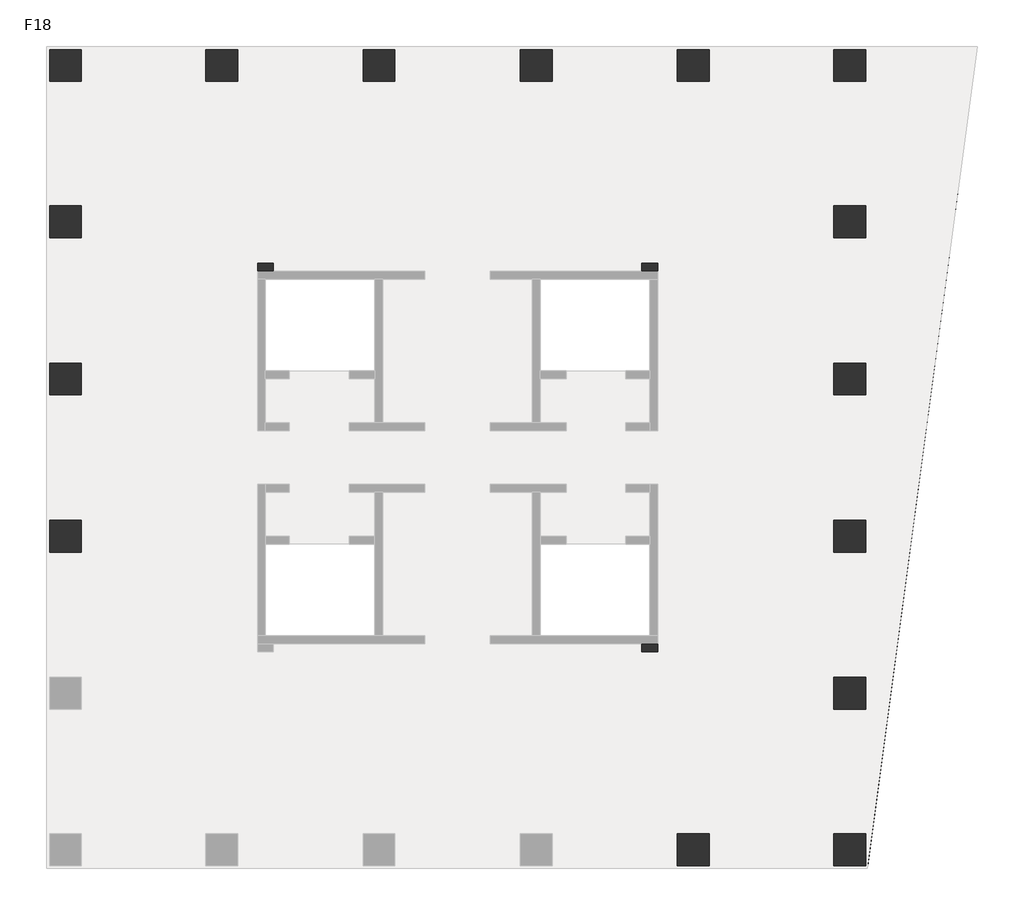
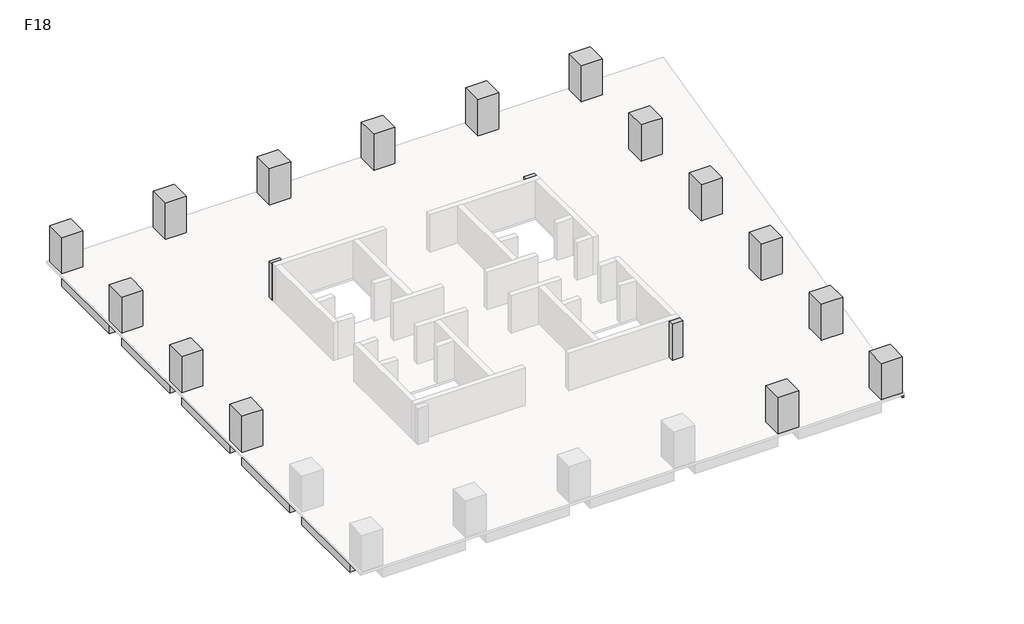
# One storey, part 2 of 2: 21 beams, 18 columns.
"""IFC4 building model written with IfcOpenShell, lengths in millimetres."""

from ifc_helpers import new_model, si_unit, frame, origin, place, context, project, spatial, polyline, outline, extrude, faceted_brep, element, save

model = new_model("IFC4")

# Units and contexts
model_context = context("Model", 3, world=origin())
ifc_project = project(units=[si_unit("LENGTHUNIT", "METRE", prefix="MILLI")], contexts=[model_context])

# Site, building, storey
site = spatial("IfcSite", under=ifc_project)
building = spatial("IfcBuilding", under=site)
storey = spatial("IfcBuildingStorey", under=building, Name="F18", Elevation=72000.0)

# Beams
placement = place(None, origin())
element("IfcBeam", 1, ObjectType="混凝土 - 矩形梁 : KL(5)-800x1000", at=placement, inside=storey, context=model_context, shape_type="SweptSolid", body=[
    extrude(outline(polyline([(25327.3257831, 27051.0498658), (25327.3257831, 26251.0498658), (19077.3257831, 26251.0498658), (19077.3257831, 27051.0498658), (25327.3257831, 27051.0498658)])), frame((0.0, 0.0, 71000.0), z_axis=(0.0, 0.0, 1.0), x_axis=(1.0, 0.0, 0.0)), (0.0, 0.0, 1.0), 840.0),
    extrude(outline(polyline([(-12472.6742169, 26251.0498658), (-12472.6742169, 27051.0498658), (-6222.6742169, 27051.0498658), (-6222.6742169, 26251.0498658), (-12472.6742169, 26251.0498658)])), frame((0.0, 0.0, 71000.0), z_axis=(0.0, 0.0, 1.0), x_axis=(1.0, 0.0, 0.0)), (0.0, 0.0, 1.0), 840.0),
    extrude(outline(polyline([(-4622.6742169, 26251.0498658), (-4622.6742169, 27051.0498658), (1677.3257831, 27051.0498658), (1677.3257831, 26251.0498658), (-4622.6742169, 26251.0498658)])), frame((0.0, 0.0, 71000.0), z_axis=(0.0, 0.0, 1.0), x_axis=(1.0, 0.0, 0.0)), (0.0, 0.0, 1.0), 840.0),
    extrude(outline(polyline([(3277.3257831, 26251.0498658), (3277.3257831, 27051.0498658), (9577.3257831, 27051.0498658), (9577.3257831, 26251.0498658), (3277.3257831, 26251.0498658)])), frame((0.0, 0.0, 71000.0), z_axis=(0.0, 0.0, 1.0), x_axis=(1.0, 0.0, 0.0)), (0.0, 0.0, 1.0), 840.0),
    extrude(outline(polyline([(11177.3257831, 26251.0498658), (11177.3257831, 27051.0498658), (17477.3257831, 27051.0498658), (17477.3257831, 26251.0498658), (11177.3257831, 26251.0498658)])), frame((0.0, 0.0, 71000.0), z_axis=(0.0, 0.0, 1.0), x_axis=(1.0, 0.0, 0.0)), (0.0, 0.0, 1.0), 840.0),
])
element("IfcBeam", 2, ObjectType="混凝土 - 矩形梁 : KL(5)-800x1000", at=placement, inside=storey, context=model_context, shape_type="Brep", body=[
    faceted_brep([(26927.3257831, 26251.0498658, 71000.0), (32422.0087099, 26251.0498658, 71000.0), (32422.0087099, 26251.0498658, 71840.0), (32018.4257091, 26251.0498658, 71840.0), (26927.3257831, 26251.0498658, 71840.0), (32422.0087099, 27051.0498658, 71000.0), (26927.3257831, 27051.0498658, 71000.0), (26927.3257831, 27051.0498658, 71840.0), (32422.0087099, 27051.0498658, 71840.0)], [[[0, 1, 2, 3, 4]], [[5, 1, 0, 6]], [[5, 6, 7, 8]], [[1, 5, 8, 2]], [[6, 0, 4, 7]], [[4, 3, 2, 8, 7]]]),
])
element("IfcBeam", 3, ObjectType="混凝土 - 矩形梁 : KL(5)-800x1000", at=placement, inside=storey, context=model_context, shape_type="Brep", body=[
    faceted_brep([(26127.3257831, -6098.9501342, 71000.0), (26127.3257831, -12348.9501342, 71000.0), (26127.3257831, -12348.9501342, 71840.0), (26127.3257831, -6098.9501342, 71840.0), (26927.3257831, -12348.9501342, 71000.0), (26927.3257831, -6098.9501342, 71000.0), (26927.3257831, -6098.9501342, 71840.0), (26927.3257831, -11700.7859463, 71840.0), (26927.3257831, -12348.9501342, 71840.0)], [[[0, 1, 2, 3]], [[4, 1, 0, 5]], [[4, 5, 6, 7, 8]], [[1, 4, 8, 2]], [[5, 0, 3, 6]], [[3, 2, 8, 7, 6]]]),
    faceted_brep([(26927.3257831, 25451.0498658, 71000.0), (26127.3257831, 25451.0498658, 71000.0), (26127.3257831, 25451.0498658, 71840.0), (26927.3257831, 25451.0498658, 71840.0), (26127.3257831, 19201.0498658, 71000.0), (26927.3257831, 19201.0498658, 71000.0), (26927.3257831, 19201.0498658, 71840.0), (26127.3257831, 19201.0498658, 71840.0)], [[[0, 1, 2, 3]], [[4, 5, 6, 7]], [[1, 4, 7, 2]], [[1, 0, 5, 4]], [[5, 0, 3, 6]], [[3, 2, 7, 6]]]),
    faceted_brep([(26927.3257831, 17601.0498658, 71000.0), (26127.3257831, 17601.0498658, 71000.0), (26127.3257831, 17601.0498658, 71840.0), (26927.3257831, 17601.0498658, 71840.0), (26127.3257831, 11301.0498658, 71000.0), (26927.3257831, 11301.0498658, 71000.0), (26927.3257831, 11301.0498658, 71840.0), (26127.3257831, 11301.0498658, 71840.0)], [[[0, 1, 2, 3]], [[4, 5, 6, 7]], [[1, 4, 7, 2]], [[1, 0, 5, 4]], [[5, 0, 3, 6]], [[3, 2, 7, 6]]]),
    faceted_brep([(26927.3257831, 9701.0498658, 71000.0), (26127.3257831, 9701.0498658, 71000.0), (26127.3257831, 9701.0498658, 71840.0), (26927.3257831, 9701.0498658, 71840.0), (26127.3257831, 3401.0498658, 71000.0), (26927.3257831, 3401.0498658, 71000.0), (26927.3257831, 3401.0498658, 71840.0), (26127.3257831, 3401.0498658, 71840.0)], [[[0, 1, 2, 3]], [[4, 5, 6, 7]], [[1, 4, 7, 2]], [[1, 0, 5, 4]], [[5, 0, 3, 6]], [[3, 2, 7, 6]]]),
    faceted_brep([(26927.3257831, 1801.0498658, 71000.0), (26127.3257831, 1801.0498658, 71000.0), (26127.3257831, 1801.0498658, 71840.0), (26927.3257831, 1801.0498658, 71840.0), (26127.3257831, -4498.9501342, 71000.0), (26927.3257831, -4498.9501342, 71000.0), (26927.3257831, -4498.9501342, 71840.0), (26127.3257831, -4498.9501342, 71840.0)], [[[0, 1, 2, 3]], [[4, 5, 6, 7]], [[1, 4, 7, 2]], [[1, 0, 5, 4]], [[5, 0, 3, 6]], [[3, 2, 7, 6]]]),
])
element("IfcBeam", 4, ObjectType="混凝土 - 矩形梁 : KL(5)-800x1000", at=placement, inside=storey, context=model_context, shape_type="SweptSolid", body=[
    extrude(outline(polyline([(-14072.6742169, 25451.0498658), (-13272.6742169, 25451.0498658), (-13272.6742169, 19201.0498658), (-14072.6742169, 19201.0498658), (-14072.6742169, 25451.0498658)])), frame((0.0, 0.0, 71000.0), z_axis=(0.0, 0.0, 1.0), x_axis=(1.0, 0.0, 0.0)), (0.0, 0.0, 1.0), 840.0),
    extrude(outline(polyline([(-13272.6742169, -12348.9501342), (-14072.6742169, -12348.9501342), (-14072.6742169, -6098.9501342), (-13272.6742169, -6098.9501342), (-13272.6742169, -12348.9501342)])), frame((0.0, 0.0, 71000.0), z_axis=(0.0, 0.0, 1.0), x_axis=(1.0, 0.0, 0.0)), (0.0, 0.0, 1.0), 840.0),
    extrude(outline(polyline([(-14072.6742169, 17601.0498658), (-13272.6742169, 17601.0498658), (-13272.6742169, 11301.0498658), (-14072.6742169, 11301.0498658), (-14072.6742169, 17601.0498658)])), frame((0.0, 0.0, 71000.0), z_axis=(0.0, 0.0, 1.0), x_axis=(1.0, 0.0, 0.0)), (0.0, 0.0, 1.0), 840.0),
    extrude(outline(polyline([(-14072.6742169, 9701.0498658), (-13272.6742169, 9701.0498658), (-13272.6742169, 3401.0498658), (-14072.6742169, 3401.0498658), (-14072.6742169, 9701.0498658)])), frame((0.0, 0.0, 71000.0), z_axis=(0.0, 0.0, 1.0), x_axis=(1.0, 0.0, 0.0)), (0.0, 0.0, 1.0), 840.0),
    extrude(outline(polyline([(-14072.6742169, 1801.0498658), (-13272.6742169, 1801.0498658), (-13272.6742169, -4498.9501342), (-14072.6742169, -4498.9501342), (-14072.6742169, 1801.0498658)])), frame((0.0, 0.0, 71000.0), z_axis=(0.0, 0.0, 1.0), x_axis=(1.0, 0.0, 0.0)), (0.0, 0.0, 1.0), 840.0),
])
element("IfcBeam", 5, ObjectType="混凝土 - 矩形梁 : L1-800x500", at=placement, inside=storey, context=model_context, shape_type="SweptSolid", body=[
    extrude(outline(polyline([(-12472.6742169, 2201.0498658), (-12472.6742169, 3001.0498658), (-3622.6742169, 3001.0498658), (-3622.6742169, 2201.0498658), (-12472.6742169, 2201.0498658)])), frame((0.0, 0.0, 71500.0), z_axis=(0.0, 0.0, 1.0), x_axis=(1.0, 0.0, 0.0)), (0.0, 0.0, 1.0), 340.0),
])
element("IfcBeam", 6, ObjectType="混凝土 - 矩形梁 : L1-800x500", at=placement, inside=storey, context=model_context, shape_type="SweptSolid", body=[
    extrude(outline(polyline([(-12472.6742169, 10101.0498658), (-12472.6742169, 10901.0498658), (-3622.6742169, 10901.0498658), (-3622.6742169, 10101.0498658), (-12472.6742169, 10101.0498658)])), frame((0.0, 0.0, 71500.0), z_axis=(0.0, 0.0, 1.0), x_axis=(1.0, 0.0, 0.0)), (0.0, 0.0, 1.0), 340.0),
])
element("IfcBeam", 7, ObjectType="混凝土 - 矩形梁 : L1-800x500", at=placement, inside=storey, context=model_context, shape_type="Brep", body=[
    faceted_brep([(-12472.6742169, 17789.85471, 71500.0), (-3622.6742169, 15588.3621727, 71500.0), (-3622.6742169, 15588.3621727, 71840.0), (-12472.6742169, 17789.85471, 71840.0), (-3173.6696907, 16301.0498658, 71500.0), (-3622.6742169, 16301.0498658, 71500.0), (-3622.6742169, 15901.0498658, 71500.0), (-12472.6742169, 18614.2350714, 71500.0), (-3746.9473979, 16443.6562607, 71500.0), (-12472.6742169, 18614.2350714, 71840.0), (-3746.9473979, 16443.6562607, 71840.0), (-3173.6696907, 16301.0498658, 71840.0), (-3622.6742169, 16301.0498658, 71840.0)], [[[0, 1, 2, 3]], [[4, 5, 6, 1, 0, 7, 8]], [[4, 8, 7, 9, 10, 11]], [[6, 5, 12, 2, 1]], [[5, 4, 11, 12]], [[7, 0, 3, 9]], [[3, 2, 12, 11, 10, 9]]]),
])
element("IfcBeam", 8, ObjectType="混凝土 - 矩形梁 : L1-800x500", at=placement, inside=storey, context=model_context, shape_type="SweptSolid", body=[
    extrude(outline(polyline([(-3173.6696907, 16301.0498658), (-3746.9473979, 16443.6562607), (-5661.5624638, 25451.0498658), (-4843.6893517, 25451.0498658), (-2898.7618154, 16301.0498658), (-3173.6696907, 16301.0498658)])), frame((0.0, 0.0, 71500.0), z_axis=(0.0, 0.0, 1.0), x_axis=(1.0, 0.0, 0.0)), (0.0, 0.0, 1.0), 340.0),
])
element("IfcBeam", 9, ObjectType="混凝土 - 矩形梁 : L1-800x500", at=placement, inside=storey, context=model_context, shape_type="SweptSolid", body=[
    extrude(outline(polyline([(2077.3257831, 25451.0498658), (2877.3257831, 25451.0498658), (2877.3257831, 15901.0498658), (2077.3257831, 15901.0498658), (2077.3257831, 25451.0498658)])), frame((0.0, 0.0, 71500.0), z_axis=(0.0, 0.0, 1.0), x_axis=(1.0, 0.0, 0.0)), (0.0, 0.0, 1.0), 340.0),
])
element("IfcBeam", 10, ObjectType="混凝土 - 矩形梁 : L1-800x500", at=placement, inside=storey, context=model_context, shape_type="SweptSolid", body=[
    extrude(outline(polyline([(9977.3257831, 25451.0498658), (10777.3257831, 25451.0498658), (10777.3257831, 15901.0498658), (9977.3257831, 15901.0498658), (9977.3257831, 25451.0498658)])), frame((0.0, 0.0, 71500.0), z_axis=(0.0, 0.0, 1.0), x_axis=(1.0, 0.0, 0.0)), (0.0, 0.0, 1.0), 340.0),
])
element("IfcBeam", 11, ObjectType="混凝土 - 矩形梁 : L1-800x500", at=placement, inside=storey, context=model_context, shape_type="Brep", body=[
    faceted_brep([(25327.3257831, -4687.7549784, 71500.0), (16477.3257831, -2486.2624411, 71500.0), (16477.3257831, -2486.2624411, 71840.0), (25327.3257831, -4687.7549784, 71840.0), (16028.3212569, -3198.9501342, 71500.0), (16477.3257831, -3198.9501342, 71500.0), (16477.3257831, -2798.9501342, 71500.0), (25327.3257831, -5512.1353397, 71500.0), (16601.5989641, -3341.556529, 71500.0), (25327.3257831, -5512.1353397, 71840.0), (16601.5989641, -3341.556529, 71840.0), (16028.3212569, -3198.9501342, 71840.0), (16477.3257831, -3198.9501342, 71840.0)], [[[0, 1, 2, 3]], [[4, 5, 6, 1, 0, 7, 8]], [[4, 8, 7, 9, 10, 11]], [[6, 5, 12, 2, 1]], [[5, 4, 11, 12]], [[7, 0, 3, 9]], [[3, 2, 12, 11, 10, 9]]]),
])
element("IfcBeam", 12, ObjectType="混凝土 - 矩形梁 : L1-800x500", at=placement, inside=storey, context=model_context, shape_type="SweptSolid", body=[
    extrude(outline(polyline([(16028.3212569, -3198.9501342), (16601.5989641, -3341.556529), (18516.21403, -12348.9501342), (17698.3409179, -12348.9501342), (15753.4133817, -3198.9501342), (16028.3212569, -3198.9501342)])), frame((0.0, 0.0, 71500.0), z_axis=(0.0, 0.0, 1.0), x_axis=(1.0, 0.0, 0.0)), (0.0, 0.0, 1.0), 340.0),
])
element("IfcBeam", 13, ObjectType="混凝土 - 矩形梁 : L1-800x500", at=placement, inside=storey, context=model_context, shape_type="SweptSolid", body=[
    extrude(outline(polyline([(25327.3257831, 3001.0498658), (25327.3257831, 2201.0498658), (16477.3257831, 2201.0498658), (16477.3257831, 3001.0498658), (25327.3257831, 3001.0498658)])), frame((0.0, 0.0, 71500.0), z_axis=(0.0, 0.0, 1.0), x_axis=(1.0, 0.0, 0.0)), (0.0, 0.0, 1.0), 340.0),
])
element("IfcBeam", 14, ObjectType="混凝土 - 矩形梁 : L1-800x500", at=placement, inside=storey, context=model_context, shape_type="SweptSolid", body=[
    extrude(outline(polyline([(25327.3257831, 10901.0498658), (25327.3257831, 10101.0498658), (16477.3257831, 10101.0498658), (16477.3257831, 10901.0498658), (25327.3257831, 10901.0498658)])), frame((0.0, 0.0, 71500.0), z_axis=(0.0, 0.0, 1.0), x_axis=(1.0, 0.0, 0.0)), (0.0, 0.0, 1.0), 340.0),
])
element("IfcBeam", 15, ObjectType="混凝土 - 矩形梁 : L1-800x500", at=placement, inside=storey, context=model_context, shape_type="Brep", body=[
    faceted_brep([(25327.3257831, 18610.6867312, 71500.0), (16590.8993897, 16393.3196262, 71500.0), (16227.3565337, 16301.0498658, 71500.0), (16227.3565337, 16301.0498658, 71840.0), (16590.8993897, 16393.3196262, 71840.0), (25327.3257831, 18610.6867312, 71840.0), (16477.3257831, 16301.0498658, 71500.0), (25327.3257831, 17785.3216299, 71500.0), (16477.3257831, 15539.1287365, 71500.0), (16477.3257831, 15901.0498658, 71500.0), (25327.3257831, 17785.3216299, 71840.0), (16477.3257831, 15539.1287365, 71840.0), (16477.3257831, 16301.0498658, 71840.0)], [[[0, 1, 2, 3, 4, 5]], [[6, 2, 1, 0, 7, 8, 9]], [[8, 7, 10, 11]], [[9, 8, 11, 12, 6]], [[2, 6, 12, 3]], [[7, 0, 5, 10]], [[5, 4, 3, 12, 11, 10]]]),
])
element("IfcBeam", 16, ObjectType="混凝土 - 矩形梁 : L1-800x500", at=placement, inside=storey, context=model_context, shape_type="SweptSolid", body=[
    extrude(outline(polyline([(16590.8993897, 16393.3196262), (16227.3565337, 16301.0498658), (15753.4133817, 16301.0498658), (17698.3409179, 25451.0498658), (18516.21403, 25451.0498658), (16590.8993897, 16393.3196262)])), frame((0.0, 0.0, 71500.0), z_axis=(0.0, 0.0, 1.0), x_axis=(1.0, 0.0, 0.0)), (0.0, 0.0, 1.0), 340.0),
])
element("IfcBeam", 17, ObjectType="混凝土 - 矩形梁 : L2-400x400", at=placement, inside=storey, context=model_context, shape_type="Brep", body=[
    faceted_brep([(32422.0087099, 26251.0498658, 71600.0), (27029.3257831, -13948.9501342, 71600.0), (26927.3257831, -13935.2672073, 71600.0), (26927.3257831, -11700.7859463, 71600.0), (27759.2793677, -5498.9501342, 71600.0), (27812.9379042, -5098.9501342, 71600.0), (28819.0354652, 2401.0498658, 71600.0), (28872.6940018, 2801.0498658, 71600.0), (29878.7915628, 10301.0498658, 71600.0), (29932.4500994, 10701.0498658, 71600.0), (30938.5476603, 18201.0498658, 71600.0), (30992.2061969, 18601.0498658, 71600.0), (32018.4257091, 26251.0498658, 71600.0), (32422.0087099, 26251.0498658, 71840.0), (27029.3257831, -13948.9501342, 71840.0), (32018.4257091, 26251.0498658, 71840.0), (26927.3257831, -13935.2672073, 71840.0), (26927.3257831, -12348.9501342, 71840.0), (26927.3257831, -11700.7859463, 71840.0), (27759.2793677, -5498.9501342, 71840.0), (27812.9379042, -5098.9501342, 71840.0), (28819.0354652, 2401.0498658, 71840.0), (28872.6940018, 2801.0498658, 71840.0), (29878.7915628, 10301.0498658, 71840.0), (29932.4500994, 10701.0498658, 71840.0), (30938.5476603, 18201.0498658, 71840.0), (30992.2061969, 18601.0498658, 71840.0)], [[[0, 1, 2, 3, 4, 5, 6, 7, 8, 9, 10, 11, 12]], [[1, 0, 13, 14]], [[0, 12, 15, 13]], [[3, 2, 16, 17, 18]], [[12, 11, 10, 9, 8, 7, 6, 5, 4, 3, 18, 19, 20, 21, 22, 23, 24, 25, 26, 15]], [[2, 1, 14, 16]], [[14, 13, 15, 26, 25, 24, 23, 22, 21, 20, 19, 18, 17, 16]]]),
])
element("IfcBeam", 18, ObjectType="混凝土 - 矩形梁 : L2-400x400", at=placement, inside=storey, context=model_context, shape_type="SweptSolid", body=[
    extrude(outline(polyline([(30938.5476603, 18201.0498658), (26927.3257831, 18201.0498658), (26927.3257831, 18601.0498658), (30992.2061969, 18601.0498658), (30938.5476603, 18201.0498658)])), frame((0.0, 0.0, 71600.0), z_axis=(0.0, 0.0, 1.0), x_axis=(1.0, 0.0, 0.0)), (0.0, 0.0, 1.0), 240.0),
])
element("IfcBeam", 19, ObjectType="混凝土 - 矩形梁 : L2-400x400", at=placement, inside=storey, context=model_context, shape_type="SweptSolid", body=[
    extrude(outline(polyline([(29878.7915628, 10301.0498658), (26927.3257831, 10301.0498658), (26927.3257831, 10701.0498658), (29932.4500994, 10701.0498658), (29878.7915628, 10301.0498658)])), frame((0.0, 0.0, 71600.0), z_axis=(0.0, 0.0, 1.0), x_axis=(1.0, 0.0, 0.0)), (0.0, 0.0, 1.0), 240.0),
])
element("IfcBeam", 20, ObjectType="混凝土 - 矩形梁 : L2-400x400", at=placement, inside=storey, context=model_context, shape_type="SweptSolid", body=[
    extrude(outline(polyline([(28819.0354652, 2401.0498658), (26927.3257831, 2401.0498658), (26927.3257831, 2801.0498658), (28872.6940018, 2801.0498658), (28819.0354652, 2401.0498658)])), frame((0.0, 0.0, 71600.0), z_axis=(0.0, 0.0, 1.0), x_axis=(1.0, 0.0, 0.0)), (0.0, 0.0, 1.0), 240.0),
])
element("IfcBeam", 21, ObjectType="混凝土 - 矩形梁 : L2-400x400", at=placement, inside=storey, context=model_context, shape_type="SweptSolid", body=[
    extrude(outline(polyline([(27759.2793677, -5498.9501342), (26927.3257831, -5498.9501342), (26927.3257831, -5098.9501342), (27812.9379042, -5098.9501342), (27759.2793677, -5498.9501342)])), frame((0.0, 0.0, 71600.0), z_axis=(0.0, 0.0, 1.0), x_axis=(1.0, 0.0, 0.0)), (0.0, 0.0, 1.0), 240.0),
])

# Columns
element("IfcColumn", 22, ObjectType="混凝土 - 矩形 - 柱 : Z1-1600x1600", at=placement, inside=storey, context=model_context, shape_type="SweptSolid", body=[
    extrude(outline(polyline([(-12472.6742169, 27051.0498658), (-12472.6742169, 25451.0498658), (-14072.6742169, 25451.0498658), (-14072.6742169, 27051.0498658), (-12472.6742169, 27051.0498658)])), frame((0.0, 0.0, 72000.0), z_axis=(0.0, 0.0, 1.0), x_axis=(1.0, 0.0, 0.0)), (0.0, 0.0, 1.0), 2900.0),
])
element("IfcColumn", 23, ObjectType="混凝土 - 矩形 - 柱 : Z1-1600x1600", at=placement, inside=storey, context=model_context, shape_type="Brep", body=[
    faceted_brep([(-4622.6742169, 27051.0498658, 72000.0), (-4622.6742169, 25451.0498658, 72000.0), (-6222.6742169, 25451.0498658, 72000.0), (-6222.6742169, 27051.0498658, 72000.0), (-4622.6742169, 27051.0498658, 74000.0), (-4622.6742169, 27051.0498658, 74900.0), (-4622.6742169, 26251.0498658, 74900.0), (-4622.6742169, 25451.0498658, 74900.0), (-6222.6742169, 25451.0498658, 74900.0), (-6222.6742169, 26251.0498658, 74900.0), (-6222.6742169, 27051.0498658, 74900.0), (-6222.6742169, 27051.0498658, 74000.0)], [[[0, 1, 2, 3]], [[1, 0, 4, 5, 6, 7]], [[2, 1, 7, 8]], [[3, 2, 8, 9, 10, 11]], [[0, 3, 11, 10, 5, 4]], [[7, 6, 5, 10, 9, 8]]]),
])
element("IfcColumn", 24, ObjectType="混凝土 - 矩形 - 柱 : Z1-1600x1600", at=placement, inside=storey, context=model_context, shape_type="Brep", body=[
    faceted_brep([(-12472.6742169, 19201.0498658, 72000.0), (-12472.6742169, 17601.0498658, 72000.0), (-14072.6742169, 17601.0498658, 72000.0), (-14072.6742169, 19201.0498658, 72000.0), (-12472.6742169, 19201.0498658, 74900.0), (-12472.6742169, 17601.0498658, 74900.0), (-13272.6742169, 17601.0498658, 74900.0), (-14072.6742169, 17601.0498658, 74900.0), (-14072.6742169, 17601.0498658, 74000.0), (-14072.6742169, 19201.0498658, 74900.0), (-14072.6742169, 19201.0498658, 74000.0), (-13272.6742169, 19201.0498658, 74900.0)], [[[0, 1, 2, 3]], [[1, 0, 4, 5]], [[2, 1, 5, 6, 7, 8]], [[3, 2, 8, 7, 9, 10]], [[0, 3, 10, 9, 11, 4]], [[5, 4, 11, 9, 7, 6]]]),
])
element("IfcColumn", 25, ObjectType="混凝土 - 矩形 - 柱 : Z1-1600x1600", at=placement, inside=storey, context=model_context, shape_type="Brep", body=[
    faceted_brep([(-12472.6742169, 11301.0498658, 72000.0), (-12472.6742169, 9701.0498658, 72000.0), (-14072.6742169, 9701.0498658, 72000.0), (-14072.6742169, 11301.0498658, 72000.0), (-12472.6742169, 11301.0498658, 74900.0), (-12472.6742169, 9701.0498658, 74900.0), (-13272.6742169, 9701.0498658, 74900.0), (-14072.6742169, 9701.0498658, 74900.0), (-14072.6742169, 9701.0498658, 74000.0), (-14072.6742169, 11301.0498658, 74900.0), (-14072.6742169, 11301.0498658, 74000.0), (-13272.6742169, 11301.0498658, 74900.0)], [[[0, 1, 2, 3]], [[1, 0, 4, 5]], [[2, 1, 5, 6, 7, 8]], [[3, 2, 8, 7, 9, 10]], [[0, 3, 10, 9, 11, 4]], [[5, 4, 11, 9, 7, 6]]]),
])
element("IfcColumn", 26, ObjectType="混凝土 - 矩形 - 柱 : Z1-1600x1600", at=placement, inside=storey, context=model_context, shape_type="Brep", body=[
    faceted_brep([(-12472.6742169, 3401.0498658, 72000.0), (-12472.6742169, 1801.0498658, 72000.0), (-14072.6742169, 1801.0498658, 72000.0), (-14072.6742169, 3401.0498658, 72000.0), (-12472.6742169, 3401.0498658, 74900.0), (-12472.6742169, 1801.0498658, 74900.0), (-13272.6742169, 1801.0498658, 74900.0), (-14072.6742169, 1801.0498658, 74900.0), (-14072.6742169, 1801.0498658, 74000.0), (-14072.6742169, 3401.0498658, 74900.0), (-14072.6742169, 3401.0498658, 74000.0), (-13272.6742169, 3401.0498658, 74900.0)], [[[0, 1, 2, 3]], [[1, 0, 4, 5]], [[2, 1, 5, 6, 7, 8]], [[3, 2, 8, 7, 9, 10]], [[0, 3, 10, 9, 11, 4]], [[5, 4, 11, 9, 7, 6]]]),
])
element("IfcColumn", 27, ObjectType="混凝土 - 矩形 - 柱 : Z1-1600x1600", at=placement, inside=storey, context=model_context, shape_type="SweptSolid", body=[
    extrude(outline(polyline([(25327.3257831, 27051.0498658), (26927.3257831, 27051.0498658), (26927.3257831, 25451.0498658), (25327.3257831, 25451.0498658), (25327.3257831, 27051.0498658)])), frame((0.0, 0.0, 72000.0), z_axis=(0.0, 0.0, 1.0), x_axis=(1.0, 0.0, 0.0)), (0.0, 0.0, 1.0), 2900.0),
])
element("IfcColumn", 28, ObjectType="混凝土 - 矩形 - 柱 : Z1-1600x1600", at=placement, inside=storey, context=model_context, shape_type="Brep", body=[
    faceted_brep([(25327.3257831, 19201.0498658, 72000.0), (26927.3257831, 19201.0498658, 72000.0), (26927.3257831, 17601.0498658, 72000.0), (25327.3257831, 17601.0498658, 72000.0), (25327.3257831, 17601.0498658, 74900.0), (25327.3257831, 19201.0498658, 74900.0), (26927.3257831, 17601.0498658, 74000.0), (26927.3257831, 17601.0498658, 74900.0), (26127.3257831, 17601.0498658, 74900.0), (26927.3257831, 19201.0498658, 74000.0), (26927.3257831, 19201.0498658, 74900.0), (26127.3257831, 19201.0498658, 74900.0)], [[[0, 1, 2, 3]], [[0, 3, 4, 5]], [[3, 2, 6, 7, 8, 4]], [[2, 1, 9, 10, 7, 6]], [[1, 0, 5, 11, 10, 9]], [[5, 4, 8, 7, 10, 11]]]),
])
element("IfcColumn", 29, ObjectType="混凝土 - 矩形 - 柱 : Z1-1600x1600", at=placement, inside=storey, context=model_context, shape_type="Brep", body=[
    faceted_brep([(25327.3257831, 11301.0498658, 72000.0), (26927.3257831, 11301.0498658, 72000.0), (26927.3257831, 9701.0498658, 72000.0), (25327.3257831, 9701.0498658, 72000.0), (25327.3257831, 9701.0498658, 74900.0), (25327.3257831, 11301.0498658, 74900.0), (26927.3257831, 9701.0498658, 74000.0), (26927.3257831, 9701.0498658, 74900.0), (26127.3257831, 9701.0498658, 74900.0), (26927.3257831, 11301.0498658, 74000.0), (26927.3257831, 11301.0498658, 74900.0), (26127.3257831, 11301.0498658, 74900.0)], [[[0, 1, 2, 3]], [[0, 3, 4, 5]], [[3, 2, 6, 7, 8, 4]], [[2, 1, 9, 10, 7, 6]], [[1, 0, 5, 11, 10, 9]], [[5, 4, 8, 7, 10, 11]]]),
])
element("IfcColumn", 30, ObjectType="混凝土 - 矩形 - 柱 : Z1-1600x1600", at=placement, inside=storey, context=model_context, shape_type="Brep", body=[
    faceted_brep([(25327.3257831, 3401.0498658, 72000.0), (26927.3257831, 3401.0498658, 72000.0), (26927.3257831, 1801.0498658, 72000.0), (25327.3257831, 1801.0498658, 72000.0), (25327.3257831, 1801.0498658, 74900.0), (25327.3257831, 3401.0498658, 74900.0), (26927.3257831, 1801.0498658, 74000.0), (26927.3257831, 1801.0498658, 74900.0), (26127.3257831, 1801.0498658, 74900.0), (26927.3257831, 3401.0498658, 74000.0), (26927.3257831, 3401.0498658, 74900.0), (26127.3257831, 3401.0498658, 74900.0)], [[[0, 1, 2, 3]], [[0, 3, 4, 5]], [[3, 2, 6, 7, 8, 4]], [[2, 1, 9, 10, 7, 6]], [[1, 0, 5, 11, 10, 9]], [[5, 4, 8, 7, 10, 11]]]),
])
element("IfcColumn", 31, ObjectType="混凝土 - 矩形 - 柱 : Z1-1600x1600", at=placement, inside=storey, context=model_context, shape_type="Brep", body=[
    faceted_brep([(25327.3257831, -4498.9501342, 72000.0), (26927.3257831, -4498.9501342, 72000.0), (26927.3257831, -6098.9501342, 72000.0), (25327.3257831, -6098.9501342, 72000.0), (25327.3257831, -6098.9501342, 74900.0), (25327.3257831, -4498.9501342, 74900.0), (26927.3257831, -6098.9501342, 74000.0), (26927.3257831, -6098.9501342, 74900.0), (26127.3257831, -6098.9501342, 74900.0), (26927.3257831, -4498.9501342, 74000.0), (26927.3257831, -4498.9501342, 74900.0), (26127.3257831, -4498.9501342, 74900.0)], [[[0, 1, 2, 3]], [[0, 3, 4, 5]], [[3, 2, 6, 7, 8, 4]], [[2, 1, 9, 10, 7, 6]], [[1, 0, 5, 11, 10, 9]], [[5, 4, 8, 7, 10, 11]]]),
])
element("IfcColumn", 32, ObjectType="混凝土 - 矩形 - 柱 : Z1-1600x1600", at=placement, inside=storey, context=model_context, shape_type="SweptSolid", body=[
    extrude(outline(polyline([(25327.3257831, -12348.9501342), (26927.3257831, -12348.9501342), (26927.3257831, -13948.9501342), (25327.3257831, -13948.9501342), (25327.3257831, -12348.9501342)])), frame((0.0, 0.0, 72000.0), z_axis=(0.0, 0.0, 1.0), x_axis=(1.0, 0.0, 0.0)), (0.0, 0.0, 1.0), 2900.0),
])
element("IfcColumn", 33, ObjectType="混凝土 - 矩形 - 柱 : Z1-1600x1600", at=placement, inside=storey, context=model_context, shape_type="Brep", body=[
    faceted_brep([(3277.3257831, 27051.0498658, 72000.0), (3277.3257831, 25451.0498658, 72000.0), (1677.3257831, 25451.0498658, 72000.0), (1677.3257831, 27051.0498658, 72000.0), (3277.3257831, 27051.0498658, 74000.0), (3277.3257831, 27051.0498658, 74900.0), (3277.3257831, 26251.0498658, 74900.0), (3277.3257831, 25451.0498658, 74900.0), (1677.3257831, 25451.0498658, 74900.0), (1677.3257831, 26251.0498658, 74900.0), (1677.3257831, 27051.0498658, 74900.0), (1677.3257831, 27051.0498658, 74000.0)], [[[0, 1, 2, 3]], [[1, 0, 4, 5, 6, 7]], [[2, 1, 7, 8]], [[3, 2, 8, 9, 10, 11]], [[0, 3, 11, 10, 5, 4]], [[7, 6, 5, 10, 9, 8]]]),
])
element("IfcColumn", 34, ObjectType="混凝土 - 矩形 - 柱 : Z1-1600x1600", at=placement, inside=storey, context=model_context, shape_type="Brep", body=[
    faceted_brep([(11177.3257831, 27051.0498658, 72000.0), (11177.3257831, 25451.0498658, 72000.0), (9577.3257831, 25451.0498658, 72000.0), (9577.3257831, 27051.0498658, 72000.0), (11177.3257831, 27051.0498658, 74000.0), (11177.3257831, 27051.0498658, 74900.0), (11177.3257831, 26251.0498658, 74900.0), (11177.3257831, 25451.0498658, 74900.0), (9577.3257831, 25451.0498658, 74900.0), (9577.3257831, 26251.0498658, 74900.0), (9577.3257831, 27051.0498658, 74900.0), (9577.3257831, 27051.0498658, 74000.0)], [[[0, 1, 2, 3]], [[1, 0, 4, 5, 6, 7]], [[2, 1, 7, 8]], [[3, 2, 8, 9, 10, 11]], [[0, 3, 11, 10, 5, 4]], [[7, 6, 5, 10, 9, 8]]]),
])
element("IfcColumn", 35, ObjectType="混凝土 - 矩形 - 柱 : Z1-1600x1600", at=placement, inside=storey, context=model_context, shape_type="Brep", body=[
    faceted_brep([(19077.3257831, 27051.0498658, 72000.0), (19077.3257831, 25451.0498658, 72000.0), (17477.3257831, 25451.0498658, 72000.0), (17477.3257831, 27051.0498658, 72000.0), (19077.3257831, 27051.0498658, 74000.0), (19077.3257831, 27051.0498658, 74900.0), (19077.3257831, 26251.0498658, 74900.0), (19077.3257831, 25451.0498658, 74900.0), (17477.3257831, 25451.0498658, 74900.0), (17477.3257831, 26251.0498658, 74900.0), (17477.3257831, 27051.0498658, 74900.0), (17477.3257831, 27051.0498658, 74000.0)], [[[0, 1, 2, 3]], [[1, 0, 4, 5, 6, 7]], [[2, 1, 7, 8]], [[3, 2, 8, 9, 10, 11]], [[0, 3, 11, 10, 5, 4]], [[7, 6, 5, 10, 9, 8]]]),
])
element("IfcColumn", 36, ObjectType="混凝土 - 矩形 - 柱 : Z1-1600x1600", at=placement, inside=storey, context=model_context, shape_type="Brep", body=[
    faceted_brep([(19077.3257831, -12348.9501342, 72000.0), (19077.3257831, -13948.9501342, 72000.0), (17477.3257831, -13948.9501342, 72000.0), (17477.3257831, -12348.9501342, 72000.0), (19077.3257831, -12348.9501342, 74900.0), (19077.3257831, -13148.9501342, 74900.0), (19077.3257831, -13948.9501342, 74900.0), (19077.3257831, -13948.9501342, 74000.0), (17477.3257831, -13948.9501342, 74900.0), (17477.3257831, -13948.9501342, 74000.0), (17477.3257831, -13148.9501342, 74900.0), (17477.3257831, -12348.9501342, 74900.0)], [[[0, 1, 2, 3]], [[1, 0, 4, 5, 6, 7]], [[2, 1, 7, 6, 8, 9]], [[3, 2, 9, 8, 10, 11]], [[0, 3, 11, 4]], [[6, 5, 4, 11, 10, 8]]]),
])
element("IfcColumn", 37, ObjectType="混凝土 - 矩形 - 柱 : Z2-800x800", at=placement, inside=storey, context=model_context, shape_type="SweptSolid", body=[
    extrude(outline(polyline([(-3622.6742169, 16301.0498658), (-2822.6742169, 16301.0498658), (-2822.6742169, 15901.0498658), (-3622.6742169, 15901.0498658), (-3622.6742169, 16301.0498658)])), frame((0.0, 0.0, 72000.0), z_axis=(0.0, 0.0, 1.0), x_axis=(1.0, 0.0, 0.0)), (0.0, 0.0, 1.0), 2900.0),
])
element("IfcColumn", 38, ObjectType="混凝土 - 矩形 - 柱 : Z2-800x800", at=placement, inside=storey, context=model_context, shape_type="SweptSolid", body=[
    extrude(outline(polyline([(16477.3257831, -3198.9501342), (15677.3257831, -3198.9501342), (15677.3257831, -2798.9501342), (16477.3257831, -2798.9501342), (16477.3257831, -3198.9501342)])), frame((0.0, 0.0, 72000.0), z_axis=(0.0, 0.0, 1.0), x_axis=(1.0, 0.0, 0.0)), (0.0, 0.0, 1.0), 2900.0),
])
element("IfcColumn", 39, ObjectType="混凝土 - 矩形 - 柱 : Z2-800x800", at=placement, inside=storey, context=model_context, shape_type="SweptSolid", body=[
    extrude(outline(polyline([(15677.3257831, 16301.0498658), (16477.3257831, 16301.0498658), (16477.3257831, 15901.0498658), (15677.3257831, 15901.0498658), (15677.3257831, 16301.0498658)])), frame((0.0, 0.0, 72000.0), z_axis=(0.0, 0.0, 1.0), x_axis=(1.0, 0.0, 0.0)), (0.0, 0.0, 1.0), 2900.0),
])

save(model, "model.ifc")
